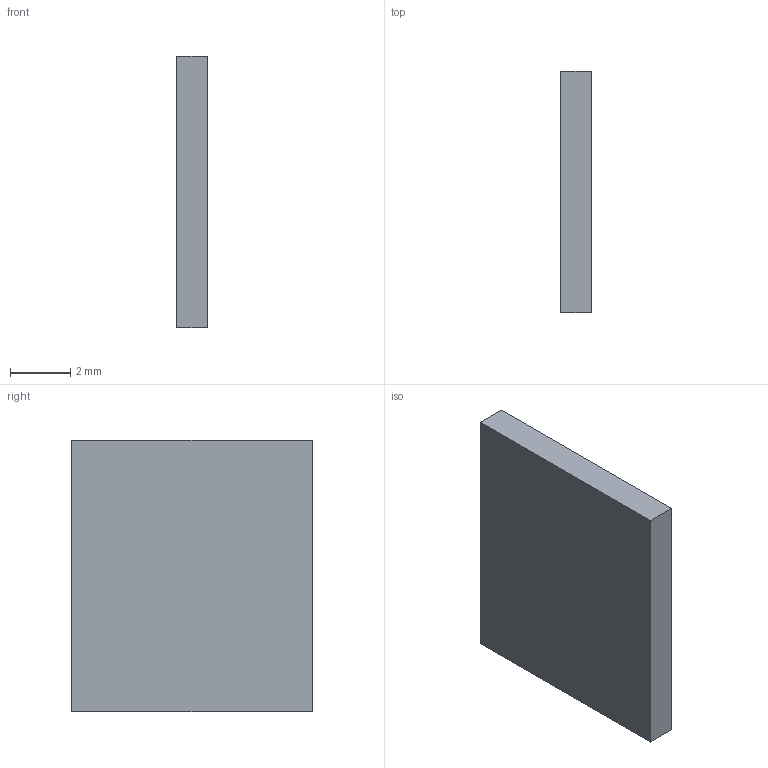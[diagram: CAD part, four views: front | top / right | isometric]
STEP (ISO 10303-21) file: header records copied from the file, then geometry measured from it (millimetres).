
FILE_DESCRIPTION(('Open CASCADE Model'),'2;1');
FILE_NAME('Open CASCADE Shape Model','2026-11-23T18:10:06',('Author'),( 'Open CASCADE'),'Open CASCADE STEP processor 8.0','build123d', 'Unknown');
FILE_SCHEMA(('AUTOMOTIVE_DESIGN { 1 0 10303 214 1 1 1 1 }'));
Length unit declared in the file: millimetre
Products named in the file (2): =>[0:1:1:2]; COMPOUND
Assembly tree (1 placements, depth 2):
  =>[0:1:1:2]
    COMPOUND
Bounding box: 1 x 8 x 9 mm (x, y, z)
Volume: 72 mm3; surface area: 178 mm2
Topology: 1 solids, 1 shells, 6 faces, 12 edges, 8 vertices
Faces by surface type: plane 6
Entity records: 340 total; most frequent: CARTESIAN_POINT 52, DIRECTION 52, LINE 36, VECTOR 36, ORIENTED_EDGE 24, PCURVE 24, DEFINITIONAL_REPRESENTATION 24, EDGE_CURVE 12
